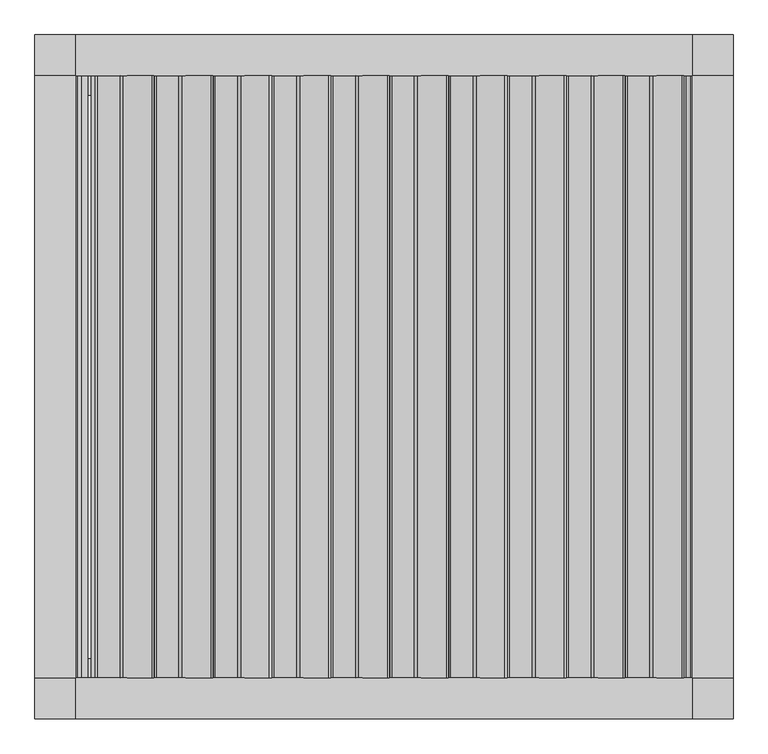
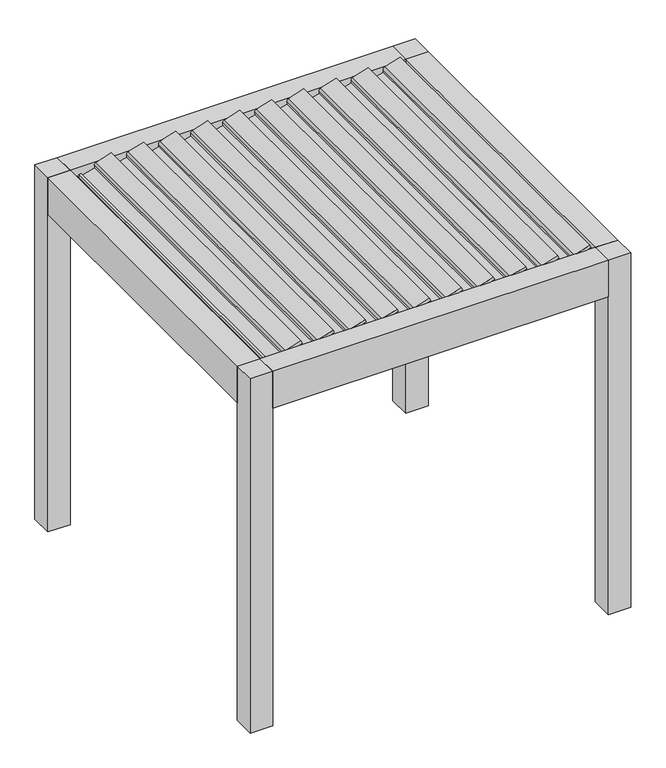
"""IFC4 building model written with IfcOpenShell, lengths in millimetres: proxy geometry, Renson_Camargue_Freestanding_Patio covers : Renson_Camargue_Freestanding_Patio covers."""

from ifc_helpers import new_model, si_unit, point, frame, frame_2d, origin, origin_with_axes, place, context, project, spatial, polyline, circle_curve, trimmed, segment, composite_curve, outline, extrude, source, transform, mapped, element, save


def generic_models_d7d8f14e(model_context):
    return source(origin(), model_context, "Body", "SweptSolid", [
        extrude(outline(composite_curve([segment(polyline([(2484.4863486, 857.3083582), (2511.83214, 852.4865573), (2520.6331137, 879.9807915), (2538.5732957, 871.6151472), (2505.0004395, 766.733574)]), True, "CONTINUOUS"), segment(trimmed(circle_curve(frame_2d((2490.7145025, 771.3065385)), 15.0), [point((2505.0004395, 766.733574))], [point((2489.4071663, 756.363618))], False, "CARTESIAN"), True, "CONTINUOUS"), segment(polyline([(2489.4071663, 756.363618), (2469.9552563, 758.0654397), (2447.2475665, 673.3191877), (2462.9650208, 665.9900184), (2458.3022482, 651.4235209), (2430.6272255, 656.3033741), (2484.4863486, 857.3083582)]), True, "CONTINUOUS")], self_intersect=False)), frame((0.0, -1100.0, 0.0), z_axis=(0.0, 1.0, 0.0), x_axis=(0.0, 0.0, 1.0)), (0.0, 0.0, 1.0), 2200.0),
        extrude(outline(composite_curve([segment(polyline([(2484.4863486, 642.2891497), (2511.83214, 637.4673488), (2520.6331137, 664.961583), (2538.5732957, 656.5959387), (2505.0004395, 551.7143655)]), True, "CONTINUOUS"), segment(trimmed(circle_curve(frame_2d((2490.7145025, 556.28733)), 15.0), [point((2505.0004395, 551.7143655))], [point((2489.4071663, 541.3444095))], False, "CARTESIAN"), True, "CONTINUOUS"), segment(polyline([(2489.4071663, 541.3444095), (2469.9552563, 543.0462312), (2447.2475665, 458.2999792), (2462.9650208, 450.9708099), (2458.3022482, 436.4043124), (2430.6272255, 441.2841656), (2484.4863486, 642.2891497)]), True, "CONTINUOUS")], self_intersect=False)), frame((0.0, -1100.0, 0.0), z_axis=(0.0, 1.0, 0.0), x_axis=(0.0, 0.0, 1.0)), (0.0, 0.0, 1.0), 2200.0),
        extrude(outline(composite_curve([segment(polyline([(2484.4863486, 427.2699412), (2511.83214, 422.4481403), (2520.6331137, 449.9423745), (2538.5732957, 441.5767302), (2505.0004395, 336.695157)]), True, "CONTINUOUS"), segment(trimmed(circle_curve(frame_2d((2490.7145025, 341.2681215)), 15.0), [point((2505.0004395, 336.695157))], [point((2489.4071663, 326.325201))], False, "CARTESIAN"), True, "CONTINUOUS"), segment(polyline([(2489.4071663, 326.325201), (2469.9552563, 328.0270227), (2447.2475665, 243.2807707), (2462.9650208, 235.9516014), (2458.3022482, 221.3851039), (2430.6272255, 226.2649571), (2484.4863486, 427.2699412)]), True, "CONTINUOUS")], self_intersect=False)), frame((0.0, -1100.0, 0.0), z_axis=(0.0, 1.0, 0.0), x_axis=(0.0, 0.0, 1.0)), (0.0, 0.0, 1.0), 2200.0),
        extrude(outline(composite_curve([segment(polyline([(2484.4863486, 212.2507327), (2511.83214, 207.4289318), (2520.6331137, 234.923166), (2538.5732957, 226.5575217), (2505.0004395, 121.6759485)]), True, "CONTINUOUS"), segment(trimmed(circle_curve(frame_2d((2490.7145025, 126.248913)), 15.0), [point((2505.0004395, 121.6759485))], [point((2489.4071663, 111.3059925))], False, "CARTESIAN"), True, "CONTINUOUS"), segment(polyline([(2489.4071663, 111.3059925), (2469.9552563, 113.0078142), (2447.2475665, 28.2615622), (2462.9650208, 20.9323929), (2458.3022482, 6.3658954), (2430.6272255, 11.2457486), (2484.4863486, 212.2507327)]), True, "CONTINUOUS")], self_intersect=False)), frame((0.0, -1100.0, 0.0), z_axis=(0.0, 1.0, 0.0), x_axis=(0.0, 0.0, 1.0)), (0.0, 0.0, 1.0), 2200.0),
        extrude(outline(composite_curve([segment(polyline([(2484.4863486, -2.7684758), (2511.83214, -7.5902767), (2520.6331137, 19.9039575), (2538.5732957, 11.5383132), (2505.0004395, -93.34326)]), True, "CONTINUOUS"), segment(trimmed(circle_curve(frame_2d((2490.7145025, -88.7702955)), 15.0), [point((2505.0004395, -93.34326))], [point((2489.4071663, -103.713216))], False, "CARTESIAN"), True, "CONTINUOUS"), segment(polyline([(2489.4071663, -103.713216), (2469.9552563, -102.0113943), (2447.2475665, -186.7576463), (2462.9650208, -194.0868156), (2458.3022482, -208.6533131), (2430.6272255, -203.7734599), (2484.4863486, -2.7684758)]), True, "CONTINUOUS")], self_intersect=False)), frame((0.0, -1100.0, 0.0), z_axis=(0.0, 1.0, 0.0), x_axis=(0.0, 0.0, 1.0)), (0.0, 0.0, 1.0), 2200.0),
        extrude(outline(composite_curve([segment(polyline([(2484.4863486, -217.7876843), (2511.83214, -222.6094852), (2520.6331137, -195.115251), (2538.5732957, -203.4808953), (2505.0004395, -308.3624685)]), True, "CONTINUOUS"), segment(trimmed(circle_curve(frame_2d((2490.7145025, -303.789504)), 15.0), [point((2505.0004395, -308.3624685))], [point((2489.4071663, -318.7324245))], False, "CARTESIAN"), True, "CONTINUOUS"), segment(polyline([(2489.4071663, -318.7324245), (2469.9552563, -317.0306028), (2447.2475665, -401.7768548), (2462.9650208, -409.1060241), (2458.3022482, -423.6725216), (2430.6272255, -418.7926684), (2484.4863486, -217.7876843)]), True, "CONTINUOUS")], self_intersect=False)), frame((0.0, -1100.0, 0.0), z_axis=(0.0, 1.0, 0.0), x_axis=(0.0, 0.0, 1.0)), (0.0, 0.0, 1.0), 2200.0),
        extrude(outline(composite_curve([segment(polyline([(2484.4863486, -432.8068928), (2511.83214, -437.6286937), (2520.6331137, -410.1344595), (2538.5732957, -418.5001038), (2505.0004395, -523.381677)]), True, "CONTINUOUS"), segment(trimmed(circle_curve(frame_2d((2490.7145025, -518.8087125)), 15.0), [point((2505.0004395, -523.381677))], [point((2489.4071663, -533.751633))], False, "CARTESIAN"), True, "CONTINUOUS"), segment(polyline([(2489.4071663, -533.751633), (2469.9552563, -532.0498113), (2447.2475665, -616.7960633), (2462.9650208, -624.1252326), (2458.3022482, -638.6917301), (2430.6272255, -633.8118769), (2484.4863486, -432.8068928)]), True, "CONTINUOUS")], self_intersect=False)), frame((0.0, -1100.0, 0.0), z_axis=(0.0, 1.0, 0.0), x_axis=(0.0, 0.0, 1.0)), (0.0, 0.0, 1.0), 2200.0),
        extrude(outline(composite_curve([segment(polyline([(2484.4863486, -647.8261013), (2511.83214, -652.6479022), (2520.6331137, -625.153668), (2538.5732957, -633.5193123), (2505.0004395, -738.4008855)]), True, "CONTINUOUS"), segment(trimmed(circle_curve(frame_2d((2490.7145025, -733.827921)), 15.0), [point((2505.0004395, -738.4008855))], [point((2489.4071663, -748.7708415))], False, "CARTESIAN"), True, "CONTINUOUS"), segment(polyline([(2489.4071663, -748.7708415), (2469.9552563, -747.0690198), (2447.2475665, -831.8152718), (2462.9650208, -839.1444411), (2458.3022482, -853.7109386), (2430.6272255, -848.8310854), (2484.4863486, -647.8261013)]), True, "CONTINUOUS")], self_intersect=False)), frame((0.0, -1100.0, 0.0), z_axis=(0.0, 1.0, 0.0), x_axis=(0.0, 0.0, 1.0)), (0.0, 0.0, 1.0), 2200.0),
        extrude(outline(composite_curve([segment(polyline([(2484.4863486, 1072.3275667), (2511.83214, 1067.5057659), (2520.6331137, 1095.0), (2538.5732957, 1086.6343557), (2505.0004395, 981.7527825)]), True, "CONTINUOUS"), segment(trimmed(circle_curve(frame_2d((2490.7145025, 986.325747)), 15.0), [point((2505.0004395, 981.7527825))], [point((2489.4071663, 971.3828265))], False, "CARTESIAN"), True, "CONTINUOUS"), segment(polyline([(2489.4071663, 971.3828265), (2469.9552563, 973.0846482), (2447.2475665, 888.3383962), (2462.9650208, 881.0092269), (2458.3022482, 866.4427294), (2430.6272255, 871.3225826), (2484.4863486, 1072.3275667)]), True, "CONTINUOUS")], self_intersect=False)), frame((0.0, -1100.0, 0.0), z_axis=(0.0, 1.0, 0.0), x_axis=(0.0, 0.0, 1.0)), (0.0, 0.0, 1.0), 2200.0),
        extrude(outline(composite_curve([segment(polyline([(2484.4863486, -862.8453098), (2511.83214, -867.6671107), (2520.6331137, -840.1728765), (2538.5732957, -848.5385208), (2505.0004395, -953.420094)]), True, "CONTINUOUS"), segment(trimmed(circle_curve(frame_2d((2490.7145025, -948.8471295)), 15.0), [point((2505.0004395, -953.420094))], [point((2489.4071663, -963.79005))], False, "CARTESIAN"), True, "CONTINUOUS"), segment(polyline([(2489.4071663, -963.79005), (2469.9552563, -962.0882283), (2447.2475665, -1046.8344803), (2462.9650208, -1054.1636496), (2458.3022482, -1068.7301471), (2430.6272255, -1063.8502939), (2484.4863486, -862.8453098)]), True, "CONTINUOUS")], self_intersect=False)), frame((0.0, -1100.0, 0.0), z_axis=(0.0, 1.0, 0.0), x_axis=(0.0, 0.0, 1.0)), (0.0, 0.0, 1.0), 2200.0),
        extrude(outline(polyline([(2441.6559373, -1125.0), (2441.6559373, -1085.0), (2455.6555802, -1081.2487113), (2455.6555802, -1104.5940945), (2471.400763, -1120.0), (2479.2449277, -1120.0), (2479.6823598, -1125.0), (2441.6559373, -1125.0)])), frame((0.0, -1100.0, 0.0), z_axis=(0.0, 1.0, 0.0), x_axis=(0.0, 0.0, 1.0)), (0.0, 0.0, 1.0), 2200.0),
        extrude(outline(polyline([(-1125.0, -1100.0), (-1275.0, -1100.0), (-1275.0, 1100.0), (-1125.0, 1100.0), (-1125.0, -1100.0)])), frame((0.0, 0.0, 2250.0), z_axis=(0.0, 0.0, 1.0), x_axis=(1.0, 0.0, 0.0)), (0.0, 0.0, 1.0), 260.0),
        extrude(outline(polyline([(2510.0, 1275.0), (2510.0, 1125.0), (2479.6904658, 1125.0), (2479.2449277, 1120.0), (2471.400763, 1120.0), (2455.6555802, 1104.2544156), (2455.6555802, 1094.9090324), (2441.6559373, 1098.6603211), (2441.6559373, 1125.0), (2250.0, 1125.0), (2250.0, 1275.0), (2510.0, 1275.0)])), frame((0.0, -1100.0, 0.0), z_axis=(0.0, 1.0, 0.0), x_axis=(0.0, 0.0, 1.0)), (0.0, 0.0, 1.0), 2200.0),
        extrude(outline(polyline([(-1100.0, 2510.0), (-1100.0, 2322.0), (-1030.0000001, 2322.0), (-1030.0000001, 2250.0), (-1250.0, 2250.0), (-1250.0, 2510.0), (-1100.0, 2510.0)])), frame((-1125.0, 0.0, 0.0), z_axis=(1.0, 0.0, 0.0), x_axis=(0.0, 1.0, 0.0)), (0.0, 0.0, 1.0), 2250.0),
        extrude(outline(polyline([(1250.0, 2250.0), (1030.0000001, 2250.0), (1030.0000001, 2322.0), (1100.0, 2322.0), (1100.0, 2510.0), (1250.0, 2510.0), (1250.0, 2250.0)])), frame((-1125.0, 0.0, 0.0), z_axis=(1.0, 0.0, 0.0), x_axis=(0.0, 1.0, 0.0)), (0.0, 0.0, 1.0), 2250.0),
        extrude(outline(polyline([(-1125.0, 1250.0), (-1125.0, 1100.0), (-1275.0, 1100.0), (-1275.0, 1250.0), (-1125.0, 1250.0)])), origin_with_axes(), (0.0, 0.0, 1.0), 2510.0),
        extrude(outline(polyline([(1275.0, 1250.0), (1275.0, 1100.0), (1125.0, 1100.0), (1125.0, 1250.0), (1275.0, 1250.0)])), origin_with_axes(), (0.0, 0.0, 1.0), 2510.0),
        extrude(outline(polyline([(1275.0, -1100.0), (1275.0, -1250.0), (1125.0, -1250.0), (1125.0, -1100.0), (1275.0, -1100.0)])), origin_with_axes(), (0.0, 0.0, 1.0), 2510.0),
        extrude(outline(polyline([(-1125.0, -1100.0), (-1125.0, -1250.0), (-1275.0, -1250.0), (-1275.0, -1100.0), (-1125.0, -1100.0)])), origin_with_axes(), (0.0, 0.0, 1.0), 2510.0),
    ])


if __name__ == "__main__":
    model = new_model("IFC4")
    model_context = context("Model", 3, world=origin())
    ifc_project = project(units=[si_unit("LENGTHUNIT", "METRE", prefix="MILLI")], contexts=[model_context])
    site = spatial("IfcSite", under=ifc_project)
    building = spatial("IfcBuilding", under=site)
    placement = place(None, origin())
    generic_models_shape = generic_models_d7d8f14e(model_context)
    element("IfcBuildingElementProxy", 1, Name="Renson_Camargue_Freestanding_Patio covers : Renson_Camargue_Freestanding_Patio covers", ObjectType="Renson_Camargue_Freestanding_Patio covers : Renson_Camargue_Freestanding_Patio covers", at=placement, inside=building, context=model_context, shape_type="MappedRepresentation", body=[
        mapped(generic_models_shape, transform((0.0, 0.0, 0.0), x_axis=(1.0, 0.0, 0.0), y_axis=(0.0, 1.0, 0.0), z_axis=(0.0, 0.0, 1.0))),
    ])
    save(model, "model.ifc")
